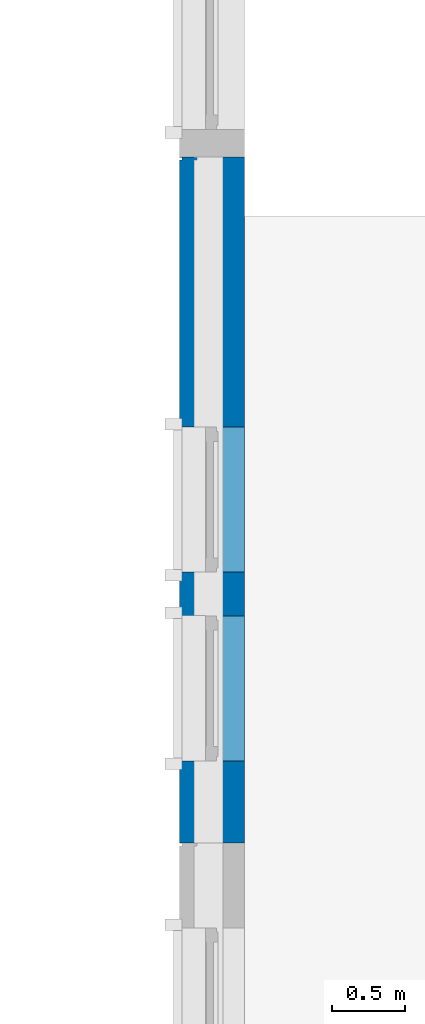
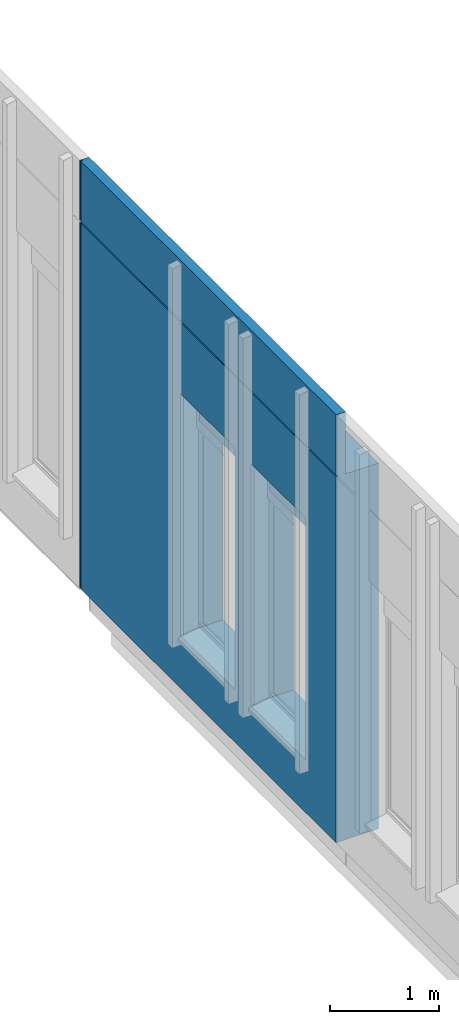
# One storey, part 6 of 33: 1 wall, 5 openings.
"""IFC2X3 building model written with IfcOpenShell, lengths in millimetres."""

from ifc_helpers import new_model, entity, si_unit, converted_unit, derived_unit, direction, frame, frame_2d, origin, place, context, subcontext, project, spatial, polyline, rectangle, extrude, clip, bounded_halfspace, faceted_brep, material, layer, layer_set, layer_usage, type_object, element, save


model = new_model("IFC2X3")

# Units and contexts
model_context = context("Model", 3, precision=0.01, world=origin(), true_north=direction((6.12303176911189e-17, 1.0)))
body_context = subcontext(model_context, "Body", "Model", "MODEL_VIEW")
ifc_project = project(units=[si_unit("LENGTHUNIT", "METRE", prefix="MILLI"), si_unit("AREAUNIT", "SQUARE_METRE"), si_unit("VOLUMEUNIT", "CUBIC_METRE"), converted_unit("PLANEANGLEUNIT", "DEGREE", entity("IfcRatioMeasure", 0.0174532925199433), si_unit("PLANEANGLEUNIT", "RADIAN"), dimensions=[0, 0, 0, 0, 0, 0, 0]), si_unit("MASSUNIT", "GRAM", prefix="KILO"), derived_unit("MASSDENSITYUNIT", [(si_unit("MASSUNIT", "GRAM", prefix="KILO"), 1), (si_unit("LENGTHUNIT", "METRE"), -3)]), si_unit("TIMEUNIT", "SECOND"), si_unit("FREQUENCYUNIT", "HERTZ"), si_unit("THERMODYNAMICTEMPERATUREUNIT", "DEGREE_CELSIUS"), derived_unit("THERMALTRANSMITTANCEUNIT", [(si_unit("MASSUNIT", "GRAM", prefix="KILO"), 1), (si_unit("THERMODYNAMICTEMPERATUREUNIT", "KELVIN"), -1), (si_unit("TIMEUNIT", "SECOND"), -3)]), derived_unit("VOLUMETRICFLOWRATEUNIT", [(si_unit("LENGTHUNIT", "METRE"), 3), (si_unit("TIMEUNIT", "SECOND"), -1)]), si_unit("ELECTRICCURRENTUNIT", "AMPERE"), si_unit("ELECTRICVOLTAGEUNIT", "VOLT"), si_unit("POWERUNIT", "WATT"), si_unit("FORCEUNIT", "NEWTON", prefix="KILO"), si_unit("ILLUMINANCEUNIT", "LUX"), si_unit("LUMINOUSFLUXUNIT", "LUMEN"), si_unit("LUMINOUSINTENSITYUNIT", "CANDELA"), derived_unit("USERDEFINED", [(si_unit("MASSUNIT", "GRAM", prefix="KILO"), -1), (si_unit("LENGTHUNIT", "METRE"), -2), (si_unit("TIMEUNIT", "SECOND"), 3), (si_unit("LUMINOUSFLUXUNIT", "LUMEN"), 1)]), derived_unit("LINEARVELOCITYUNIT", [(si_unit("LENGTHUNIT", "METRE"), 1), (si_unit("TIMEUNIT", "SECOND"), -1)]), si_unit("PRESSUREUNIT", "PASCAL"), derived_unit("USERDEFINED", [(si_unit("LENGTHUNIT", "METRE"), -2), (si_unit("MASSUNIT", "GRAM", prefix="KILO"), 1), (si_unit("TIMEUNIT", "SECOND"), -2)])], contexts=[model_context])

# Site, building, storey
site_placement = place(None, origin())
site = spatial("IfcSite", under=ifc_project, at=site_placement, Name="Default", CompositionType="ELEMENT")
building_placement = place(site_placement, origin())
building = spatial("IfcBuilding", under=site, at=building_placement, CompositionType="ELEMENT")
storey_placement = place(building_placement, frame((0.0, 0.0, 4000.0)))
storey = spatial("IfcBuildingStorey", under=building, at=storey_placement, Name="2. KORRUS", CompositionType="ELEMENT", Elevation=4000.0)

# Wall, openings
ifc_material_1 = material(Name="RECKLI 1 173 THUR by Polantis 2016-toon2")
ifc_layer_1 = layer(ifc_material_1, 100.0)
ifc_material_2 = material(Name="Soojusisolatsioon EPS")
ifc_layer_2 = layer(ifc_material_2, 200.0)
ifc_material_3 = material(Name="r/b")
ifc_layer_3 = layer(ifc_material_3, 150.0)
ifc_layer_set = layer_set([ifc_layer_1, ifc_layer_2, ifc_layer_3], Name="Basic Wall:VS-1_toon-c")
ifc_layer_usage = layer_usage(ifc_layer_set, "AXIS2", "POSITIVE", -225.0)
wall_type = type_object("IfcWallType", Name="Basic Wall:VS-1_toon-c", PredefinedType="STANDARD", material=ifc_layer_set)
wall_placement = place(storey_placement, frame((-225.0, 13010.0, -115.0), z_axis=(0.0, 0.0, 1.0), x_axis=(0.0, -1.0, 0.0)))
wall = element("IfcWallStandardCase", 1, at=wall_placement, inside=storey, type_object=wall_type, material=ifc_layer_usage, Name="Basic Wall:VS-1_toon-c", ObjectType="Basic Wall:VS-1_toon-c", context=body_context, shape_type="Clipping", body=[
    clip(extrude(rectangle(XDim=4724.85920481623, YDim=450.0, at=frame_2d((2362.42960240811, -2.8421709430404e-14), x_axis=(-1.0, 0.0))), origin(), (0.0, 0.0, 1.0), 4815.0), bounded_halfspace(frame((4724.85920481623, 225.0, 4115.0), z_axis=(0.0, 0.0, 1.0), x_axis=(0.0, 1.0, 0.0)), False, frame((4724.85920481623, 225.0, 4115.0)), polyline([(0.0, 0.0), (-4724.85920481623, 0.0), (-4724.85920481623, -350.0), (0.0, -350.0), (0.0, 0.0)]))),
])
opening_1_placement = place(wall_placement, origin())
element("IfcOpeningElement", 2, at=opening_1_placement, cuts=wall, Name="Basic Wall:VS-1_toon-c", ObjectType="Recess", context=body_context, shape_type="SweptSolid", body=[
    extrude(rectangle(XDim=4815.0, YDim=16.0000000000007, at=frame_2d((-2.27373675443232e-13, 0.0), x_axis=(1.0, 0.0))), frame((12.0, -225.0, 2407.5), z_axis=(0.0, 1.0, 0.0), x_axis=(0.0, 0.0, -1.0)), (0.0, 0.0, 1.0), 20.0),
])
opening_2_placement = place(wall_placement, origin())
element("IfcOpeningElement", 3, at=opening_2_placement, cuts=wall, Name="Basic Wall:VS-1_toon-c", ObjectType="Recess", context=body_context, shape_type="SweptSolid", body=[
    extrude(rectangle(XDim=15.9999999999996, YDim=20.0, at=frame_2d((-3.37507799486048e-14, 5.40900657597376e-13), x_axis=(0.0, 1.0))), frame((13450.0, 4035.0, 4127.0), z_axis=(0.0, 1.0, 0.0), x_axis=(1.0, 0.0, 0.0)), (0.0, 0.0, 1.0), 7590.0),
    extrude(rectangle(XDim=15.9999999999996, YDim=4660.0, at=frame_2d((-2.27373675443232e-12, 5.40900657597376e-13), x_axis=(0.0, 1.0))), frame((-12610.0, -225.0, 4127.0), z_axis=(0.0, 1.0, 0.0), x_axis=(1.0, 0.0, 0.0)), (0.0, 0.0, 1.0), 20.0000000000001),
    extrude(rectangle(XDim=15.9999999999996, YDim=19.9999999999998, at=frame_2d((5.40900657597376e-13, -2.16626716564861e-12), x_axis=(1.0, 0.0))), frame((-8930.05178073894, 9875.0, 4127.0), z_axis=(0.0, 1.0, 0.0), x_axis=(0.0, 0.0, -1.0)), (0.0, 0.0, 1.0), 5230.3475962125),
    extrude(rectangle(XDim=15.9999999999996, YDim=19.9999999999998, at=frame_2d((5.40900657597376e-13, -2.16626716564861e-12), x_axis=(1.0, 0.0))), frame((-15030.0, -225.0, 4127.0), z_axis=(0.0, 1.0, 0.0), x_axis=(0.0, 0.0, -1.0)), (0.0, 0.0, 1.0), 4360.0),
    extrude(rectangle(XDim=15.9999999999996, YDim=20.0, at=frame_2d((-3.37507799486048e-14, -5.40900657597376e-13), x_axis=(0.0, 1.0))), frame((13450.0, 35025.0, 4127.0), z_axis=(0.0, 1.0, 0.0), x_axis=(1.0, 0.0, 0.0)), (0.0, 0.0, 1.0), 5050.0),
    extrude(rectangle(XDim=15.9999999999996, YDim=19.9999999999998, at=frame_2d((5.40900657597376e-13, -2.16626716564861e-12), x_axis=(1.0, 0.0))), frame((-8930.05178073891, 34195.1035702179, 4127.0), z_axis=(0.0, 1.0, 0.0), x_axis=(0.0, 0.0, -1.0)), (0.0, 0.0, 1.0), 5979.89642978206),
    extrude(rectangle(XDim=15.9999999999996, YDim=19.9999999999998, at=frame_2d((5.40900657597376e-13, -2.16626716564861e-12), x_axis=(1.0, 0.0))), frame((-8930.05178073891, 28888.2161487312, 4127.0), z_axis=(0.0, 1.0, 0.0), x_axis=(0.0, 0.0, -1.0)), (0.0, 0.0, 1.0), 5306.88742148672),
    extrude(rectangle(XDim=15.9999999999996, YDim=6099.94821928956, at=frame_2d((0.0, 0.0), x_axis=(0.0, 1.0))), frame((-11890.0258903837, 9855.0, 4127.0), z_axis=(0.0, 1.0, 0.0), x_axis=(1.0, 0.0, 0.0)), (0.0, 0.0, 1.0), 19.9999999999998),
    extrude(rectangle(XDim=15.9999999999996, YDim=20.0, at=frame_2d((-3.37507799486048e-14, 5.40900657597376e-13), x_axis=(0.0, 1.0))), frame((13450.0, -125.0, 4127.0), z_axis=(0.0, 1.0, 0.0), x_axis=(1.0, 0.0, 0.0)), (0.0, 0.0, 1.0), 4160.00000000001),
    extrude(rectangle(XDim=15.9999999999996, YDim=4865.0, at=frame_2d((0.0, 5.40900657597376e-13), x_axis=(0.0, 1.0))), frame((11027.4999999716, 40155.0, 4127.0), z_axis=(0.0, 1.0, 0.0), x_axis=(1.0, 0.0, 0.0)), (0.0, 0.0, 1.0), 20.0000000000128),
    extrude(rectangle(XDim=15.9999999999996, YDim=4228.33000000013, at=frame_2d((0.0, 0.0), x_axis=(0.0, 1.0))), frame((6480.83499997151, 40155.0, 4127.0), z_axis=(0.0, 1.0, 0.0), x_axis=(1.0, 0.0, 0.0)), (0.0, 0.0, 1.0), 20.0000000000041),
    extrude(rectangle(XDim=15.9999999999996, YDim=4236.66999997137, at=frame_2d((1.13686837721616e-12, 0.0), x_axis=(0.0, 1.0))), frame((2248.33499998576, 40155.0, 4127.0), z_axis=(0.0, 1.0, 0.0), x_axis=(1.0, 0.0, 0.0)), (0.0, 0.0, 1.0), 19.9999999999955),
    extrude(rectangle(XDim=15.9999999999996, YDim=2910.00000002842, at=frame_2d((2.1600499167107e-12, 5.40900657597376e-13), x_axis=(0.0, 1.0))), frame((-1325.0, 40155.0, 4127.0), z_axis=(0.0, 1.0, 0.0), x_axis=(1.0, 0.0, 0.0)), (0.0, 0.0, 1.0), 20.0000000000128),
    extrude(rectangle(XDim=15.9999999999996, YDim=6060.05178071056, at=frame_2d((0.0, 0.0), x_axis=(0.0, 1.0))), frame((-5810.02589038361, 40155.0, 4127.0), z_axis=(0.0, 1.0, 0.0), x_axis=(1.0, 0.0, 0.0)), (0.0, 0.0, 1.0), 19.9999999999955),
    extrude(rectangle(XDim=15.9999999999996, YDim=19.9999999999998, at=frame_2d((5.40900657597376e-13, -2.16626716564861e-12), x_axis=(1.0, 0.0))), frame((-8930.05178073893, 18478.3528910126, 4127.0), z_axis=(0.0, 1.0, 0.0), x_axis=(0.0, 0.0, -1.0)), (0.0, 0.0, 1.0), 3831.64710898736),
    extrude(rectangle(XDim=15.9999999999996, YDim=19.9999999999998, at=frame_2d((5.40900657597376e-13, -2.16626716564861e-12), x_axis=(1.0, 0.0))), frame((-8930.05178073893, 15105.3475962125, 4127.0), z_axis=(0.0, 1.0, 0.0), x_axis=(0.0, 0.0, -1.0)), (0.0, 0.0, 1.0), 3373.00529480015),
    extrude(rectangle(XDim=15.9999999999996, YDim=19.9999999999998, at=frame_2d((5.40900657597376e-13, 2.16626716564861e-12), x_axis=(1.0, 0.0))), frame((-15030.0, 4135.0, 4127.0), z_axis=(0.0, 1.0, 0.0), x_axis=(0.0, 0.0, -1.0)), (0.0, 0.0, 1.0), 5739.99999999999),
    extrude(rectangle(XDim=15.9999999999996, YDim=6849.99930276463, at=frame_2d((1.13686837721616e-12, 5.40900657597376e-13), x_axis=(0.0, 1.0))), frame((-6855.0003486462, -225.0, 4127.0), z_axis=(0.0, 1.0, 0.0), x_axis=(1.0, 0.0, 0.0)), (0.0, 0.0, 1.0), 20.0),
    extrude(rectangle(XDim=15.9999999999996, YDim=3430.00069726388, at=frame_2d((1.02318153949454e-12, 5.40900657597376e-13), x_axis=(0.0, 1.0))), frame((-1715.00034863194, -225.0, 4127.0), z_axis=(0.0, 1.0, 0.0), x_axis=(1.0, 0.0, 0.0)), (0.0, 0.0, 1.0), 20.0000000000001),
    extrude(rectangle(XDim=15.9999999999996, YDim=19.9999999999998, at=frame_2d((5.40900657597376e-13, -2.16626716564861e-12), x_axis=(1.0, 0.0))), frame((-8930.05178073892, 22310.0, 4127.0), z_axis=(0.0, 1.0, 0.0), x_axis=(0.0, 0.0, -1.0)), (0.0, 0.0, 1.0), 6578.21614873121),
    extrude(rectangle(XDim=15.9999999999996, YDim=20.0, at=frame_2d((-3.37507799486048e-14, 5.40900657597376e-13), x_axis=(0.0, 1.0))), frame((13450.0, 11625.0, 4127.0), z_axis=(0.0, 1.0, 0.0), x_axis=(1.0, 0.0, 0.0)), (0.0, 0.0, 1.0), 4110.00000000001),
    extrude(rectangle(XDim=15.9999999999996, YDim=20.0, at=frame_2d((-3.37507799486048e-14, 5.40900657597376e-13), x_axis=(0.0, 1.0))), frame((13450.0, 15735.0, 4127.0), z_axis=(0.0, 1.0, 0.0), x_axis=(1.0, 0.0, 0.0)), (0.0, 0.0, 1.0), 4600.0),
    extrude(rectangle(XDim=15.9999999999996, YDim=20.0, at=frame_2d((3.37507799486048e-14, 5.40900657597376e-13), x_axis=(0.0, 1.0))), frame((13450.0, 20335.0, 4127.0), z_axis=(0.0, 1.0, 0.0), x_axis=(1.0, 0.0, 0.0)), (0.0, 0.0, 1.0), 4600.0),
    extrude(rectangle(XDim=15.9999999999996, YDim=20.0, at=frame_2d((3.37507799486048e-14, 5.40900657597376e-13), x_axis=(0.0, 1.0))), frame((13450.0, 24935.0, 4127.0), z_axis=(0.0, 1.0, 0.0), x_axis=(1.0, 0.0, 0.0)), (0.0, 0.0, 1.0), 5299.99999999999),
    extrude(rectangle(XDim=15.9999999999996, YDim=20.0, at=frame_2d((-3.37507799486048e-14, 5.40900657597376e-13), x_axis=(0.0, 1.0))), frame((13450.0, 30235.0, 4127.0), z_axis=(0.0, 1.0, 0.0), x_axis=(1.0, 0.0, 0.0)), (0.0, 0.0, 1.0), 4790.0),
    extrude(rectangle(XDim=15.9999999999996, YDim=4724.85920481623, at=frame_2d((6.82121026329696e-13, 5.40900657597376e-13), x_axis=(0.0, 1.0))), frame((2362.42960240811, -225.0, 4127.0), z_axis=(0.0, 1.0, 0.0), x_axis=(1.0, 0.0, 0.0)), (0.0, 0.0, 1.0), 20.0000000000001),
    extrude(rectangle(XDim=15.9999999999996, YDim=8735.1407951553, at=frame_2d((0.0, 5.40900657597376e-13), x_axis=(0.0, 1.0))), frame((9092.42960239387, -225.0, 4127.0), z_axis=(0.0, 1.0, 0.0), x_axis=(1.0, 0.0, 0.0)), (0.0, 0.0, 1.0), 20.0),
])
opening_3_placement = place(wall_placement, origin())
element("IfcOpeningElement", 4, at=opening_3_placement, cuts=wall, Name="Basic Wall:VS-1_toon-c", ObjectType="Recess", context=body_context, shape_type="SweptSolid", body=[
    extrude(rectangle(XDim=285.0, YDim=16.0000000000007, at=frame_2d((2.70006239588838e-13, 0.0), x_axis=(1.0, 0.0))), frame((12.0, -125.0, -142.499999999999), z_axis=(0.0, 1.0, 0.0), x_axis=(0.0, 0.0, -1.0)), (0.0, 0.0, 1.0), 20.0),
    extrude(rectangle(XDim=4815.0, YDim=16.0000000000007, at=frame_2d((-2.27373675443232e-13, 0.0), x_axis=(1.0, 0.0))), frame((12.0, -225.0, 2407.5), z_axis=(0.0, 1.0, 0.0), x_axis=(0.0, 0.0, -1.0)), (0.0, 0.0, 1.0), 20.0),
])
opening_4_placement = place(wall_placement, frame((2860.0, -225.0, 593.057009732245), z_axis=(0.0, 0.0, 1.0), x_axis=(0.0, 1.0, 0.0)))
element("IfcOpeningElement", 5, at=opening_4_placement, cuts=wall, Name="Basic Wall:VS-1_toon-c", ObjectType="Opening", context=body_context, shape_type="Brep", body=[
    faceted_brep([(450.0, 0.0, 2346.94299026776), (450.0, 0.0, 21.9429902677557), (450.0, 1000.0, 21.9429902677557), (450.0, 1000.0, 2346.94299026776), (0.0, 1000.0, 2721.94299026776), (0.0, 1000.0, 0.0), (0.0, 0.0, 0.0), (0.0, 0.0, 2721.94299026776), (200.0, 0.0, 2346.94299026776), (200.0, 0.0, 2721.94299026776), (124.444881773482, 0.0, 21.9429902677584), (124.444881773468, 1000.0, 21.9429902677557), (200.0, 1000.0, 2721.94299026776), (200.0, 1000.0, 2346.94299026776)], [[[0, 1, 2, 3]], [[4, 5, 6, 7]], [[0, 8, 9, 7, 6, 10, 1]], [[1, 10, 11, 2]], [[2, 11, 5, 4, 12, 13, 3]], [[3, 13, 8, 0]], [[9, 8, 13, 12]], [[12, 4, 7, 9]], [[6, 5, 11, 10]]]),
])
opening_5_placement = place(wall_placement, frame((4160.0, -225.0, 593.057009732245), z_axis=(0.0, 0.0, 1.0), x_axis=(0.0, 1.0, 0.0)))
element("IfcOpeningElement", 6, at=opening_5_placement, cuts=wall, Name="Basic Wall:VS-1_toon-c", ObjectType="Opening", context=body_context, shape_type="Brep", body=[
    faceted_brep([(450.0, 0.0, 2346.94299026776), (450.0, 0.0, 21.9429902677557), (450.0, 1000.0, 21.9429902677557), (450.0, 1000.0, 2346.94299026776), (0.0, 1000.0, 2721.94299026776), (0.0, 1000.0, 0.0), (0.0, 0.0, 0.0), (0.0, 0.0, 2721.94299026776), (200.0, 0.0, 2346.94299026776), (200.0, 0.0, 2721.94299026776), (124.444881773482, 0.0, 21.9429902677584), (124.444881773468, 1000.0, 21.9429902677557), (200.0, 1000.0, 2721.94299026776), (200.0, 1000.0, 2346.94299026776)], [[[0, 1, 2, 3]], [[4, 5, 6, 7]], [[0, 8, 9, 7, 6, 10, 1]], [[1, 10, 11, 2]], [[2, 11, 5, 4, 12, 13, 3]], [[3, 13, 8, 0]], [[9, 8, 13, 12]], [[12, 4, 7, 9]], [[6, 5, 11, 10]]]),
])

save(model, "model.ifc")
